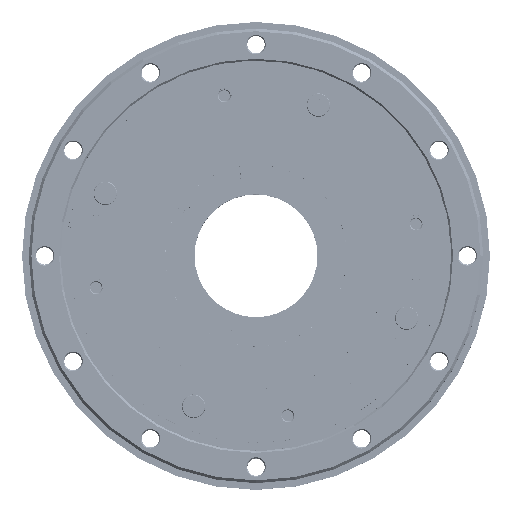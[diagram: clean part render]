
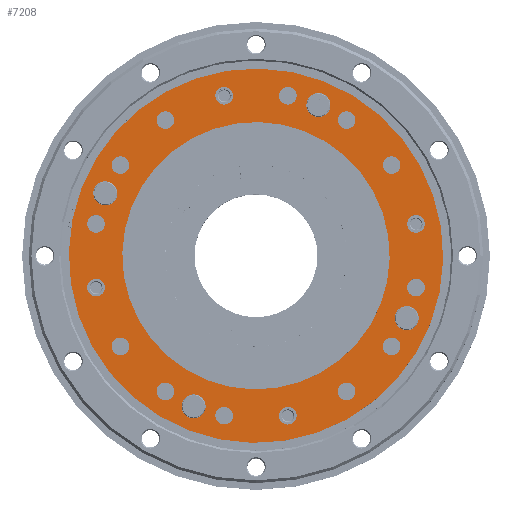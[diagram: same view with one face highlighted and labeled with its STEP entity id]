
A CAD part, top view. The second image highlights one B-rep face of the part: STEP entity #7208.
In plain terms, the highlighted planar face has unit normal (0, 0, 1) as drawn and (0, 0, -1) by its records, which use the part's own axes.
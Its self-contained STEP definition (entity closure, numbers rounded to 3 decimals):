
#6239=PLANE('',#21632);
#7208=ADVANCED_FACE('',(#8837,#8838,#8839,#8840,#8841,#8842,#8843,#8844,
#8845,#8846,#8847,#8848,#8849,#8850,#8851,#8852,#8853,#8854,#8855,#8856,
#8857,#8858),#6239,.F.);
#8837=FACE_BOUND('',#10370,.T.);
#8838=FACE_BOUND('',#10371,.T.);
#8839=FACE_BOUND('',#10372,.T.);
#8840=FACE_BOUND('',#10373,.T.);
#8841=FACE_BOUND('',#10374,.T.);
#8842=FACE_BOUND('',#10375,.T.);
#8843=FACE_BOUND('',#10376,.T.);
#8844=FACE_BOUND('',#10377,.T.);
#8845=FACE_BOUND('',#10378,.T.);
#8846=FACE_BOUND('',#10379,.T.);
#8847=FACE_BOUND('',#10380,.T.);
#8848=FACE_BOUND('',#10381,.T.);
#8849=FACE_BOUND('',#10382,.T.);
#8850=FACE_BOUND('',#10383,.T.);
#8851=FACE_BOUND('',#10384,.T.);
#8852=FACE_BOUND('',#10385,.T.);
#8853=FACE_BOUND('',#10386,.T.);
#8854=FACE_BOUND('',#10387,.T.);
#8855=FACE_BOUND('',#10388,.T.);
#8856=FACE_BOUND('',#10389,.T.);
#8857=FACE_BOUND('',#10390,.T.);
#8858=FACE_BOUND('',#10391,.T.);
#10370=EDGE_LOOP('',(#13789));
#10371=EDGE_LOOP('',(#13790));
#10372=EDGE_LOOP('',(#13791));
#10373=EDGE_LOOP('',(#13792));
#10374=EDGE_LOOP('',(#13793));
#10375=EDGE_LOOP('',(#13794));
#10376=EDGE_LOOP('',(#13795));
#10377=EDGE_LOOP('',(#13796));
#10378=EDGE_LOOP('',(#13797));
#10379=EDGE_LOOP('',(#13798));
#10380=EDGE_LOOP('',(#13799));
#10381=EDGE_LOOP('',(#13800));
#10382=EDGE_LOOP('',(#13801));
#10383=EDGE_LOOP('',(#13802));
#10384=EDGE_LOOP('',(#13803));
#10385=EDGE_LOOP('',(#13804));
#10386=EDGE_LOOP('',(#13805));
#10387=EDGE_LOOP('',(#13806));
#10388=EDGE_LOOP('',(#13807));
#10389=EDGE_LOOP('',(#13808));
#10390=EDGE_LOOP('',(#13809));
#10391=EDGE_LOOP('',(#13810));
#13789=ORIENTED_EDGE('',*,*,#18737,.F.);
#13790=ORIENTED_EDGE('',*,*,#18738,.F.);
#13791=ORIENTED_EDGE('',*,*,#18739,.F.);
#13792=ORIENTED_EDGE('',*,*,#18740,.F.);
#13793=ORIENTED_EDGE('',*,*,#18741,.F.);
#13794=ORIENTED_EDGE('',*,*,#18742,.F.);
#13795=ORIENTED_EDGE('',*,*,#18743,.F.);
#13796=ORIENTED_EDGE('',*,*,#18744,.F.);
#13797=ORIENTED_EDGE('',*,*,#18745,.F.);
#13798=ORIENTED_EDGE('',*,*,#18746,.F.);
#13799=ORIENTED_EDGE('',*,*,#18747,.F.);
#13800=ORIENTED_EDGE('',*,*,#18748,.F.);
#13801=ORIENTED_EDGE('',*,*,#18749,.F.);
#13802=ORIENTED_EDGE('',*,*,#18750,.F.);
#13803=ORIENTED_EDGE('',*,*,#18751,.F.);
#13804=ORIENTED_EDGE('',*,*,#18752,.F.);
#13805=ORIENTED_EDGE('',*,*,#18753,.F.);
#13806=ORIENTED_EDGE('',*,*,#18754,.F.);
#13807=ORIENTED_EDGE('',*,*,#18755,.F.);
#13808=ORIENTED_EDGE('',*,*,#18756,.F.);
#13809=ORIENTED_EDGE('',*,*,#18709,.F.);
#13810=ORIENTED_EDGE('',*,*,#18736,.F.);
#16632=VERTEX_POINT('',#139528);
#16659=VERTEX_POINT('',#139591);
#16660=VERTEX_POINT('',#139594);
#16661=VERTEX_POINT('',#139596);
#16662=VERTEX_POINT('',#139598);
#16663=VERTEX_POINT('',#139600);
#16664=VERTEX_POINT('',#139602);
#16665=VERTEX_POINT('',#139604);
#16666=VERTEX_POINT('',#139606);
#16667=VERTEX_POINT('',#139608);
#16668=VERTEX_POINT('',#139610);
#16669=VERTEX_POINT('',#139612);
#16670=VERTEX_POINT('',#139614);
#16671=VERTEX_POINT('',#139616);
#16672=VERTEX_POINT('',#139618);
#16673=VERTEX_POINT('',#139620);
#16674=VERTEX_POINT('',#139622);
#16675=VERTEX_POINT('',#139624);
#16676=VERTEX_POINT('',#139626);
#16677=VERTEX_POINT('',#139628);
#16678=VERTEX_POINT('',#139630);
#16679=VERTEX_POINT('',#139632);
#18709=EDGE_CURVE('',#16632,#16632,#20188,.T.);
#18736=EDGE_CURVE('',#16659,#16659,#20215,.T.);
#18737=EDGE_CURVE('',#16660,#16660,#20216,.T.);
#18738=EDGE_CURVE('',#16661,#16661,#20217,.T.);
#18739=EDGE_CURVE('',#16662,#16662,#20218,.T.);
#18740=EDGE_CURVE('',#16663,#16663,#20219,.T.);
#18741=EDGE_CURVE('',#16664,#16664,#20220,.T.);
#18742=EDGE_CURVE('',#16665,#16665,#20221,.T.);
#18743=EDGE_CURVE('',#16666,#16666,#20222,.T.);
#18744=EDGE_CURVE('',#16667,#16667,#20223,.T.);
#18745=EDGE_CURVE('',#16668,#16668,#20224,.T.);
#18746=EDGE_CURVE('',#16669,#16669,#20225,.T.);
#18747=EDGE_CURVE('',#16670,#16670,#20226,.T.);
#18748=EDGE_CURVE('',#16671,#16671,#20227,.T.);
#18749=EDGE_CURVE('',#16672,#16672,#20228,.T.);
#18750=EDGE_CURVE('',#16673,#16673,#20229,.T.);
#18751=EDGE_CURVE('',#16674,#16674,#20230,.T.);
#18752=EDGE_CURVE('',#16675,#16675,#20231,.T.);
#18753=EDGE_CURVE('',#16676,#16676,#20232,.T.);
#18754=EDGE_CURVE('',#16677,#16677,#20233,.T.);
#18755=EDGE_CURVE('',#16678,#16678,#20234,.T.);
#18756=EDGE_CURVE('',#16679,#16679,#20235,.T.);
#20188=CIRCLE('',#21574,70.);
#20215=CIRCLE('',#21610,50.);
#20216=CIRCLE('',#21612,4.5);
#20217=CIRCLE('',#21613,4.5);
#20218=CIRCLE('',#21614,4.5);
#20219=CIRCLE('',#21615,4.5);
#20220=CIRCLE('',#21616,3.3);
#20221=CIRCLE('',#21617,3.3);
#20222=CIRCLE('',#21618,3.3);
#20223=CIRCLE('',#21619,3.3);
#20224=CIRCLE('',#21620,3.3);
#20225=CIRCLE('',#21621,3.3);
#20226=CIRCLE('',#21622,3.3);
#20227=CIRCLE('',#21623,3.3);
#20228=CIRCLE('',#21624,3.3);
#20229=CIRCLE('',#21625,3.3);
#20230=CIRCLE('',#21626,3.3);
#20231=CIRCLE('',#21627,3.3);
#20232=CIRCLE('',#21628,3.3);
#20233=CIRCLE('',#21629,3.3);
#20234=CIRCLE('',#21630,3.3);
#20235=CIRCLE('',#21631,3.3);
#21574=AXIS2_PLACEMENT_3D('',#139527,#24864,#24865);
#21610=AXIS2_PLACEMENT_3D('',#139590,#24936,#24937);
#21612=AXIS2_PLACEMENT_3D('',#139593,#24940,#24941);
#21613=AXIS2_PLACEMENT_3D('',#139595,#24942,#24943);
#21614=AXIS2_PLACEMENT_3D('',#139597,#24944,#24945);
#21615=AXIS2_PLACEMENT_3D('',#139599,#24946,#24947);
#21616=AXIS2_PLACEMENT_3D('',#139601,#24948,#24949);
#21617=AXIS2_PLACEMENT_3D('',#139603,#24950,#24951);
#21618=AXIS2_PLACEMENT_3D('',#139605,#24952,#24953);
#21619=AXIS2_PLACEMENT_3D('',#139607,#24954,#24955);
#21620=AXIS2_PLACEMENT_3D('',#139609,#24956,#24957);
#21621=AXIS2_PLACEMENT_3D('',#139611,#24958,#24959);
#21622=AXIS2_PLACEMENT_3D('',#139613,#24960,#24961);
#21623=AXIS2_PLACEMENT_3D('',#139615,#24962,#24963);
#21624=AXIS2_PLACEMENT_3D('',#139617,#24964,#24965);
#21625=AXIS2_PLACEMENT_3D('',#139619,#24966,#24967);
#21626=AXIS2_PLACEMENT_3D('',#139621,#24968,#24969);
#21627=AXIS2_PLACEMENT_3D('',#139623,#24970,#24971);
#21628=AXIS2_PLACEMENT_3D('',#139625,#24972,#24973);
#21629=AXIS2_PLACEMENT_3D('',#139627,#24974,#24975);
#21630=AXIS2_PLACEMENT_3D('',#139629,#24976,#24977);
#21631=AXIS2_PLACEMENT_3D('',#139631,#24978,#24979);
#21632=AXIS2_PLACEMENT_3D('',#139633,#24980,#24981);
#24864=DIRECTION('',(0.,0.,1.));
#24865=DIRECTION('',(1.,0.,0.));
#24936=DIRECTION('',(0.,0.,-1.));
#24937=DIRECTION('',(1.,0.,0.));
#24940=DIRECTION('',(0.,0.,-1.));
#24941=DIRECTION('',(0.981,0.195,0.));
#24942=DIRECTION('',(0.,0.,-1.));
#24943=DIRECTION('',(-0.195,0.981,0.));
#24944=DIRECTION('',(0.,0.,-1.));
#24945=DIRECTION('',(-0.981,-0.195,0.));
#24946=DIRECTION('',(0.,0.,-1.));
#24947=DIRECTION('',(0.195,-0.981,0.));
#24948=DIRECTION('',(0.,0.,-1.));
#24949=DIRECTION('',(1.,0.,0.));
#24950=DIRECTION('',(0.,0.,-1.));
#24951=DIRECTION('',(1.,0.,0.));
#24952=DIRECTION('',(0.,0.,-1.));
#24953=DIRECTION('',(1.,0.,0.));
#24954=DIRECTION('',(0.,0.,-1.));
#24955=DIRECTION('',(1.,0.,0.));
#24956=DIRECTION('',(0.,0.,-1.));
#24957=DIRECTION('',(1.,0.,0.));
#24958=DIRECTION('',(0.,0.,-1.));
#24959=DIRECTION('',(1.,0.,0.));
#24960=DIRECTION('',(0.,0.,-1.));
#24961=DIRECTION('',(1.,0.,0.));
#24962=DIRECTION('',(0.,0.,-1.));
#24963=DIRECTION('',(1.,0.,0.));
#24964=DIRECTION('',(0.,0.,-1.));
#24965=DIRECTION('',(1.,0.,0.));
#24966=DIRECTION('',(0.,0.,-1.));
#24967=DIRECTION('',(1.,0.,0.));
#24968=DIRECTION('',(0.,0.,-1.));
#24969=DIRECTION('',(1.,0.,0.));
#24970=DIRECTION('',(0.,0.,-1.));
#24971=DIRECTION('',(1.,0.,0.));
#24972=DIRECTION('',(0.,0.,-1.));
#24973=DIRECTION('',(1.,0.,0.));
#24974=DIRECTION('',(0.,0.,-1.));
#24975=DIRECTION('',(1.,0.,0.));
#24976=DIRECTION('',(0.,0.,-1.));
#24977=DIRECTION('',(1.,0.,0.));
#24978=DIRECTION('',(0.,0.,-1.));
#24979=DIRECTION('',(1.,0.,0.));
#24980=DIRECTION('',(0.,0.,1.));
#24981=DIRECTION('',(1.,0.,0.));
#139527=CARTESIAN_POINT('',(0.,0.,7.));
#139528=CARTESIAN_POINT('',(70.,0.,7.));
#139590=CARTESIAN_POINT('',(0.,0.,7.));
#139591=CARTESIAN_POINT('',(50.,0.,7.));
#139593=CARTESIAN_POINT('',(59.828,11.901,7.));
#139594=CARTESIAN_POINT('',(64.241,12.778,7.));
#139595=CARTESIAN_POINT('',(-11.901,59.828,7.));
#139596=CARTESIAN_POINT('',(-12.778,64.241,7.));
#139597=CARTESIAN_POINT('',(-59.828,-11.901,7.));
#139598=CARTESIAN_POINT('',(-64.241,-12.778,7.));
#139599=CARTESIAN_POINT('',(11.901,-59.828,7.));
#139600=CARTESIAN_POINT('',(12.778,-64.241,7.));
#139601=CARTESIAN_POINT('',(61.,0.,7.));
#139602=CARTESIAN_POINT('',(64.3,0.,7.));
#139603=CARTESIAN_POINT('',(56.357,-23.344,7.));
#139604=CARTESIAN_POINT('',(59.657,-23.344,7.));
#139605=CARTESIAN_POINT('',(43.134,-43.134,7.));
#139606=CARTESIAN_POINT('',(46.434,-43.134,7.));
#139607=CARTESIAN_POINT('',(23.344,-56.357,7.));
#139608=CARTESIAN_POINT('',(26.644,-56.357,7.));
#139609=CARTESIAN_POINT('',(0.,61.,7.));
#139610=CARTESIAN_POINT('',(3.3,61.,7.));
#139611=CARTESIAN_POINT('',(-23.344,-56.357,7.));
#139612=CARTESIAN_POINT('',(-20.044,-56.357,7.));
#139613=CARTESIAN_POINT('',(-43.134,-43.134,7.));
#139614=CARTESIAN_POINT('',(-39.834,-43.134,7.));
#139615=CARTESIAN_POINT('',(-56.357,-23.344,7.));
#139616=CARTESIAN_POINT('',(-53.057,-23.344,7.));
#139617=CARTESIAN_POINT('',(-61.,0.,7.));
#139618=CARTESIAN_POINT('',(-57.7,0.,7.));
#139619=CARTESIAN_POINT('',(-56.357,23.344,7.));
#139620=CARTESIAN_POINT('',(-53.057,23.344,7.));
#139621=CARTESIAN_POINT('',(-43.134,43.134,7.));
#139622=CARTESIAN_POINT('',(-39.834,43.134,7.));
#139623=CARTESIAN_POINT('',(-23.344,56.357,7.));
#139624=CARTESIAN_POINT('',(-20.044,56.357,7.));
#139625=CARTESIAN_POINT('',(0.,-61.,7.));
#139626=CARTESIAN_POINT('',(3.3,-61.,7.));
#139627=CARTESIAN_POINT('',(23.344,56.357,7.));
#139628=CARTESIAN_POINT('',(26.644,56.357,7.));
#139629=CARTESIAN_POINT('',(43.134,43.134,7.));
#139630=CARTESIAN_POINT('',(46.434,43.134,7.));
#139631=CARTESIAN_POINT('',(56.357,23.344,7.));
#139632=CARTESIAN_POINT('',(59.657,23.344,7.));
#139633=CARTESIAN_POINT('',(0.,0.,7.));
